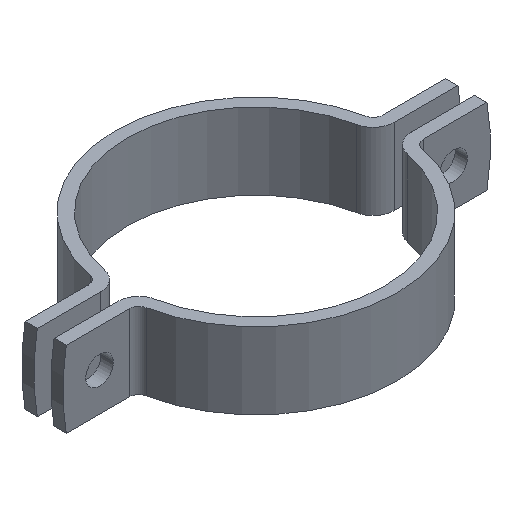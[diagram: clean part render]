
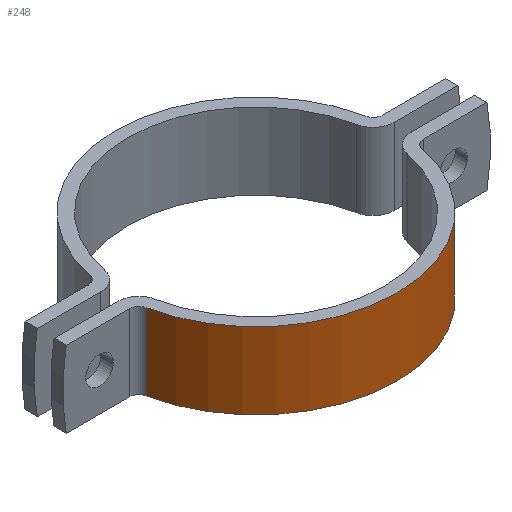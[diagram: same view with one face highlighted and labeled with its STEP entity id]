
A CAD part, isometric view. The second image highlights one B-rep face of the part: STEP entity #248.
In plain terms, the highlighted cylindrical face has radius 92.15 mm (diameter 184.3 mm), a partial arc.
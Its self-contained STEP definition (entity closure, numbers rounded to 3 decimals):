
#3 = VECTOR ( 'NONE', #932, 1000. ) ;
#46 = VERTEX_POINT ( 'NONE', #185 ) ;
#71 = ORIENTED_EDGE ( 'NONE', *, *, #1241, .T. ) ;
#118 = DIRECTION ( 'NONE',  ( 0., 0., 1. ) ) ;
#185 = CARTESIAN_POINT ( 'NONE',  ( -90.313, -18.308, 0. ) ) ;
#214 = CYLINDRICAL_SURFACE ( 'NONE', #231, 92.15 ) ;
#231 = AXIS2_PLACEMENT_3D ( 'NONE', #802, #118, #594 ) ;
#238 = EDGE_LOOP ( 'NONE', ( #1168, #425, #1169, #71 ) ) ;
#248 = ADVANCED_FACE ( 'NONE', ( #1181 ), #214, .T. ) ;
#271 = CARTESIAN_POINT ( 'NONE',  ( 90.313, -18.308, -50. ) ) ;
#348 = LINE ( 'NONE', #937, #3 ) ;
#363 = CIRCLE ( 'NONE', #825, 92.15 ) ;
#425 = ORIENTED_EDGE ( 'NONE', *, *, #1142, .F. ) ;
#516 = AXIS2_PLACEMENT_3D ( 'NONE', #544, #733, #1102 ) ;
#529 = VERTEX_POINT ( 'NONE', #626 ) ;
#544 = CARTESIAN_POINT ( 'NONE',  ( 0., 0., -50. ) ) ;
#565 = DIRECTION ( 'NONE',  ( 0., 0., 1. ) ) ;
#594 = DIRECTION ( 'NONE',  ( 1., 0., 0. ) ) ;
#599 = EDGE_CURVE ( 'NONE', #529, #890, #973, .T. ) ;
#626 = CARTESIAN_POINT ( 'NONE',  ( -90.313, -18.308, -50. ) ) ;
#681 = EDGE_CURVE ( 'NONE', #46, #1140, #363, .T. ) ;
#733 = DIRECTION ( 'NONE',  ( 0., 0., 1. ) ) ;
#738 = DIRECTION ( 'NONE',  ( 0., 0., 1. ) ) ;
#758 = CARTESIAN_POINT ( 'NONE',  ( 90.313, -18.308, 0. ) ) ;
#802 = CARTESIAN_POINT ( 'NONE',  ( 0., 0., -50. ) ) ;
#825 = AXIS2_PLACEMENT_3D ( 'NONE', #858, #738, #1139 ) ;
#858 = CARTESIAN_POINT ( 'NONE',  ( 0., 0., 0. ) ) ;
#890 = VERTEX_POINT ( 'NONE', #959 ) ;
#932 = DIRECTION ( 'NONE',  ( 0., 0., 1. ) ) ;
#937 = CARTESIAN_POINT ( 'NONE',  ( -90.313, -18.308, -50. ) ) ;
#959 = CARTESIAN_POINT ( 'NONE',  ( 90.313, -18.308, -50. ) ) ;
#973 = CIRCLE ( 'NONE', #516, 92.15 ) ;
#1050 = VECTOR ( 'NONE', #565, 1000. ) ;
#1058 = LINE ( 'NONE', #271, #1050 ) ;
#1102 = DIRECTION ( 'NONE',  ( 1., 0., 0. ) ) ;
#1139 = DIRECTION ( 'NONE',  ( 1., 0., 0. ) ) ;
#1140 = VERTEX_POINT ( 'NONE', #758 ) ;
#1142 = EDGE_CURVE ( 'NONE', #529, #46, #348, .T. ) ;
#1168 = ORIENTED_EDGE ( 'NONE', *, *, #681, .F. ) ;
#1169 = ORIENTED_EDGE ( 'NONE', *, *, #599, .T. ) ;
#1181 = FACE_OUTER_BOUND ( 'NONE', #238, .T. ) ;
#1241 = EDGE_CURVE ( 'NONE', #890, #1140, #1058, .T. ) ;
